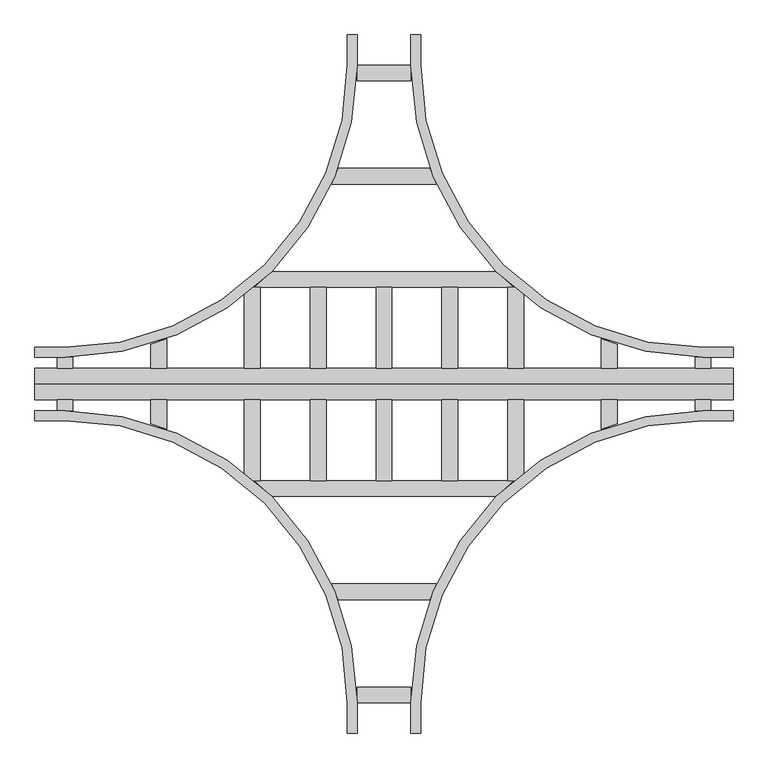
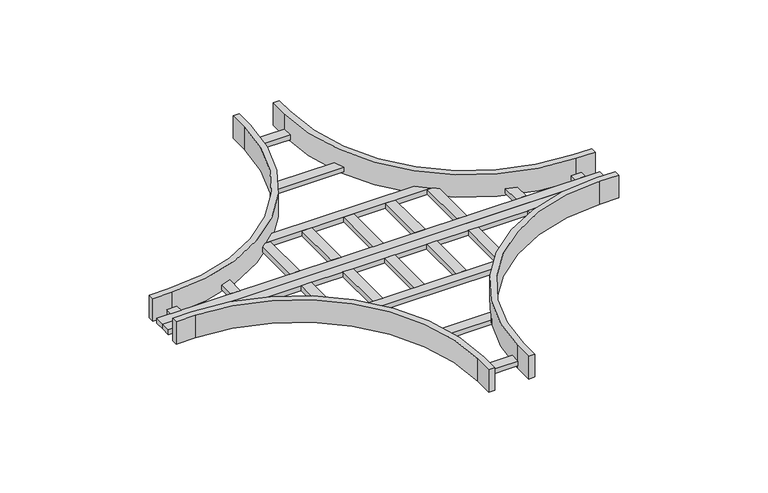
"""IFC4 building model written with IfcOpenShell, lengths in millimetres: cable carrier fitting geometry, Legrand_CableLadder_Swifts_Topaz_Cross2Piece-750R-13 : Hot Dip Galvanised (after manufacture)."""

import ifcopenshell
import ifcopenshell.guid

model = None  # the IFC model being written
_history = None  # IfcOwnerHistory: only IFC2X3 demands one
_inside = {}  # id of a spatial element -> (the spatial element, [elements in it])
_under = {}  # id of a project, library or spatial element -> (it, [spatial elements below it])
_declared = {}  # id of a project -> (the project, [libraries it declares])
_typed = {}  # id of a type object -> (the type object, [elements of that type])
_made_of = {}  # id of a material, layer set ... -> (it, [elements and type objects made of it])


def new_model(schema):
    """Start an empty IFC model of exactly this schema.

    Asked for "IFC4X3", IfcOpenShell would pick the latest addendum, in which some entities
    have other attributes; the version numbers below select the first issue.
    IFC2X3 requires an IfcOwnerHistory on every rooted entity: one is made here for all.
    """
    global model, _history
    if schema == "IFC4X3":
        model = ifcopenshell.file(schema_version=(4, 3, 0, 0))
    else:
        model = ifcopenshell.file(schema=schema)
    _inside.clear()
    _under.clear()
    _declared.clear()
    _typed.clear()
    _made_of.clear()
    _history = None
    if model.schema == "IFC2X3":
        org = make("IfcOrganization", Name="unknown")
        user = make(
            "IfcPersonAndOrganization",
            ThePerson=make("IfcPerson", FamilyName="unknown"),
            TheOrganization=org,
        )
        app = make(
            "IfcApplication",
            ApplicationDeveloper=org,
            Version="unknown",
            ApplicationFullName="unknown",
            ApplicationIdentifier="unknown",
        )
        _history = make(
            "IfcOwnerHistory",
            OwningUser=user,
            OwningApplication=app,
            ChangeAction="ADDED",
            CreationDate=0,
        )
    return model


def make(cls, **values):
    """One entity of the class cls with the attributes given. An attribute that is None is left unset."""
    return model.create_entity(
        cls, **{name: value for name, value in values.items() if value is not None}
    )


def rooted(cls, **values):
    """An entity with a GlobalId (a new one), such as an element, a storey or a relation."""
    return make(cls, GlobalId=ifcopenshell.guid.new(), OwnerHistory=_history, **values)


def si_unit(unit_type, name, prefix=None):
    """IfcSIUnit, for example si_unit("LENGTHUNIT", "METRE", prefix="MILLI")."""
    return make("IfcSIUnit", UnitType=unit_type, Prefix=prefix, Name=name)


def assignment(units):
    """IfcUnitAssignment: the units of a project."""
    return None if units is None else make("IfcUnitAssignment", Units=units)


def point(xyz):
    """IfcCartesianPoint."""
    return None if xyz is None else make("IfcCartesianPoint", Coordinates=xyz)


def direction(xyz):
    """IfcDirection."""
    return None if xyz is None else make("IfcDirection", DirectionRatios=xyz)


def frame(location, z_axis=None, x_axis=None):
    """IfcAxis2Placement3D, a coordinate frame: its origin and axes. An axis left out is left unset."""
    return make(
        "IfcAxis2Placement3D",
        Location=point(location),
        Axis=direction(z_axis),
        RefDirection=direction(x_axis),
    )


def frame_2d(location, x_axis=None):
    """IfcAxis2Placement2D, a coordinate frame in the plane: its origin and x axis."""
    return make(
        "IfcAxis2Placement2D", Location=point(location), RefDirection=direction(x_axis)
    )


def origin():
    """The frame at (0, 0, 0) with its axes left unset."""
    return frame((0.0, 0.0, 0.0))


def place(relative_to, where):
    """IfcLocalPlacement: puts the frame where relative to a parent placement (None: the world)."""
    return make(
        "IfcLocalPlacement", PlacementRelTo=relative_to, RelativePlacement=where
    )


def context(
    kind, dimensions, precision=None, world=None, true_north=None, identifier=None
):
    """IfcGeometricRepresentationContext, for example the 3D "Model" context."""
    return make(
        "IfcGeometricRepresentationContext",
        ContextIdentifier=identifier,
        ContextType=kind,
        CoordinateSpaceDimension=dimensions,
        Precision=precision,
        WorldCoordinateSystem=world,
        TrueNorth=true_north,
    )


def project(units=None, contexts=None):
    """IfcProject with its units and contexts."""
    return rooted(
        "IfcProject",
        Name="project",
        RepresentationContexts=contexts,
        UnitsInContext=assignment(units),
    )


def spatial(cls, under=None, at=None, **own):
    """A site, building, storey or space (cls), placed at a placement, below another one or the project."""
    s = rooted(cls, ObjectPlacement=at, **own)
    if under is not None:
        _under.setdefault(under.id(), (under, []))[1].append(s)
    return s


def polyline(points):
    """IfcPolyline through the points."""
    return make("IfcPolyline", Points=[point(p) for p in points])


def circle_curve(where, radius):
    """IfcCircle in the frame where."""
    return make("IfcCircle", Position=where, Radius=radius)


def trimmed(basis, trim1, trim2, sense, master):
    """IfcTrimmedCurve: the piece of a basis curve between two trims."""
    return make(
        "IfcTrimmedCurve",
        BasisCurve=basis,
        Trim1=trim1,
        Trim2=trim2,
        SenseAgreement=sense,
        MasterRepresentation=master,
    )


def segment(curve, same_sense, transition):
    """IfcCompositeCurveSegment."""
    return make(
        "IfcCompositeCurveSegment",
        Transition=transition,
        SameSense=same_sense,
        ParentCurve=curve,
    )


def composite_curve(segments, self_intersect=None):
    """IfcCompositeCurve: segments joined end to end."""
    return make("IfcCompositeCurve", Segments=segments, SelfIntersect=self_intersect)


def outline(outer, holes=None, kind="AREA"):
    """IfcArbitraryClosedProfileDef: a profile drawn as a closed curve; with holes, ...WithVoids."""
    if holes is None:
        return make("IfcArbitraryClosedProfileDef", ProfileType=kind, OuterCurve=outer)
    return make(
        "IfcArbitraryProfileDefWithVoids",
        ProfileType=kind,
        OuterCurve=outer,
        InnerCurves=holes,
    )


def extrude(swept, where, along, depth):
    """IfcExtrudedAreaSolid: the profile swept, set in the frame where, extruded along a direction by depth."""
    return make(
        "IfcExtrudedAreaSolid",
        SweptArea=swept,
        Position=where,
        ExtrudedDirection=direction(along),
        Depth=depth,
    )


def shape(context_of_items, identifier, shape_type, items):
    """IfcShapeRepresentation: the items that make up one representation, for example the "Body"."""
    return make(
        "IfcShapeRepresentation",
        ContextOfItems=context_of_items,
        RepresentationIdentifier=identifier,
        RepresentationType=shape_type,
        Items=items,
    )


def source(mapping_origin, context_of_items, identifier, shape_type, items):
    """IfcRepresentationMap: a shape defined once, which mapped items show again and again."""
    return make(
        "IfcRepresentationMap",
        MappingOrigin=mapping_origin,
        MappedRepresentation=shape(context_of_items, identifier, shape_type, items),
    )


def transform(
    local_origin,
    x_axis=None,
    y_axis=None,
    z_axis=None,
    scale=None,
    scale2=None,
    scale3=None,
    uniform=True,
):
    """IfcCartesianTransformationOperator3D, or its non-uniform kind. x_axis, y_axis, z_axis: its Axis1, 2, 3."""
    if uniform:
        return make(
            "IfcCartesianTransformationOperator3D",
            Axis1=direction(x_axis),
            Axis2=direction(y_axis),
            LocalOrigin=point(local_origin),
            Scale=scale,
            Axis3=direction(z_axis),
        )
    return make(
        "IfcCartesianTransformationOperator3DnonUniform",
        Axis1=direction(x_axis),
        Axis2=direction(y_axis),
        LocalOrigin=point(local_origin),
        Scale=scale,
        Axis3=direction(z_axis),
        Scale2=scale2,
        Scale3=scale3,
    )


def mapped(mapping_source, mapping_target):
    """IfcMappedItem: shows the shape of a source again, moved by a transform."""
    return make(
        "IfcMappedItem", MappingSource=mapping_source, MappingTarget=mapping_target
    )


def made_of(thing, what):
    """Note that an element or type object is made of a material, layer set ...; save() writes the relation."""
    if what is not None:
        _made_of.setdefault(what.id(), (what, []))[1].append(thing)
    return thing


def element(
    cls,
    number,
    at=None,
    inside=None,
    cuts=None,
    type_object=None,
    material=None,
    context=None,
    identifier="Body",
    shape_type=None,
    held_by="IfcProductDefinitionShape",
    body=None,
    shapes=None,
    **own,
):
    """One element of the class cls, such as IfcWall. Its Tag is "e" and its number.

    at: its placement. inside: the storey or other place that contains it. cuts: it is an
    opening in that element (IfcRelVoidsElement). A single representation is given by context,
    identifier, shape_type and body (its items); several are given by shapes. held_by: the class
    of the entity that holds the representations. save() writes the other relations.
    """
    e = rooted(cls, Tag="e%d" % number, ObjectPlacement=at, **own)
    if body is not None:
        shapes = [shape(context, identifier, shape_type, body)]
    if shapes is not None:
        e.Representation = make(held_by, Representations=shapes)
    if inside is not None:
        _inside.setdefault(inside.id(), (inside, []))[1].append(e)
    if cuts is not None:
        rooted(
            "IfcRelVoidsElement", RelatingBuildingElement=cuts, RelatedOpeningElement=e
        )
    if type_object is not None:
        _typed.setdefault(type_object.id(), (type_object, []))[1].append(e)
    return made_of(e, material)


def aggregate(whole, parts):
    """IfcRelAggregates: a whole, such as a stair, and the parts it consists of."""
    return rooted("IfcRelAggregates", RelatingObject=whole, RelatedObjects=parts)


def save(model, path):
    """Write the relations noted so far, then the file.

    IfcRelAggregates (storeys below a building ...), IfcRelContainedInSpatialStructure (elements
    in a storey), IfcRelDefinesByType, IfcRelAssociatesMaterial and IfcRelDeclares: one each for
    every whole, place, type object, material and project.
    """
    for whole, parts in _under.values():
        aggregate(whole, parts)
    for where, things in _inside.values():
        rooted(
            "IfcRelContainedInSpatialStructure",
            RelatedElements=things,
            RelatingStructure=where,
        )
    for kind, things in _typed.values():
        rooted("IfcRelDefinesByType", RelatedObjects=things, RelatingType=kind)
    for what, things in _made_of.values():
        rooted("IfcRelAssociatesMaterial", RelatedObjects=things, RelatingMaterial=what)
    for by, libraries in _declared.values():
        rooted("IfcRelDeclares", RelatingContext=by, RelatedDefinitions=libraries)
    model.write(path)


def cable_carrier_fitting_7f253313(model_context):
    return source(origin(), model_context, "Body", "SweptSolid", [
        extrude(outline(polyline([(-196.0, 42.0), (-196.0, 256.6), (-154.0, 256.6), (-154.0, 42.0), (-196.0, 42.0)])), frame((0.0, 0.0, -40.0), z_axis=(0.0, 0.0, 1.0), x_axis=(1.0, 0.0, 0.0)), (0.0, 0.0, 1.0), 21.0),
        extrude(outline(polyline([(154.0, 42.0), (154.0, 256.6), (196.0, 256.6), (196.0, 42.0), (154.0, 42.0)])), frame((0.0, 0.0, -40.0), z_axis=(0.0, 0.0, 1.0), x_axis=(1.0, 0.0, 0.0)), (0.0, 0.0, 1.0), 21.0),
        extrude(outline(polyline([(-154.0, -42.0), (-154.0, -256.6), (-196.0, -256.6), (-196.0, -42.0), (-154.0, -42.0)])), frame((0.0, 0.0, -40.0), z_axis=(0.0, 0.0, 1.0), x_axis=(1.0, 0.0, 0.0)), (0.0, 0.0, 1.0), 21.0),
        extrude(outline(polyline([(196.0, -256.6), (154.0, -256.6), (154.0, -42.0), (196.0, -42.0), (196.0, -256.6)])), frame((0.0, 0.0, -40.0), z_axis=(0.0, 0.0, 1.0), x_axis=(1.0, 0.0, 0.0)), (0.0, 0.0, 1.0), 21.0),
        extrude(outline(composite_curve([segment(polyline([(577.5, 42.0), (577.5, 119.8342692)]), True, "CONTINUOUS"), segment(trimmed(circle_curve(frame_2d((847.0, 847.0)), 775.5), [point((577.5, 119.8342692))], [point((619.5, 105.6202053))], True, "CARTESIAN"), True, "CONTINUOUS"), segment(polyline([(619.5, 105.6202053), (619.5, 42.0), (577.5, 42.0)]), True, "CONTINUOUS")], self_intersect=False)), frame((0.0, 0.0, -40.0), z_axis=(0.0, 0.0, 1.0), x_axis=(1.0, 0.0, 0.0)), (0.0, 0.0, 1.0), 21.0),
        extrude(outline(composite_curve([segment(polyline([(577.5, -119.8342692), (577.5, -42.0), (619.5, -42.0), (619.5, -105.6202053)]), True, "CONTINUOUS"), segment(trimmed(circle_curve(frame_2d((847.0, -847.0)), 775.5), [point((619.5, -105.6202053))], [point((577.5, -119.8342692))], True, "CARTESIAN"), True, "CONTINUOUS")], self_intersect=False)), frame((0.0, 0.0, -40.0), z_axis=(0.0, 0.0, 1.0), x_axis=(1.0, 0.0, 0.0)), (0.0, 0.0, 1.0), 21.0),
        extrude(outline(composite_curve([segment(polyline([(-577.5, 42.0), (-619.5, 42.0), (-619.5, 105.6202053)]), True, "CONTINUOUS"), segment(trimmed(circle_curve(frame_2d((-847.0, 847.0)), 775.5), [point((-619.5, 105.6202053))], [point((-577.5, 119.8342692))], True, "CARTESIAN"), True, "CONTINUOUS"), segment(polyline([(-577.5, 119.8342692), (-577.5, 42.0)]), True, "CONTINUOUS")], self_intersect=False)), frame((0.0, 0.0, -40.0), z_axis=(0.0, 0.0, 1.0), x_axis=(1.0, 0.0, 0.0)), (0.0, 0.0, 1.0), 21.0),
        extrude(outline(composite_curve([segment(polyline([(-619.5, -42.0), (-577.5, -42.0), (-577.5, -119.8342692)]), True, "CONTINUOUS"), segment(trimmed(circle_curve(frame_2d((-847.0, -847.0)), 775.5), [point((-577.5, -119.8342692))], [point((-619.5, -105.6202053))], True, "CARTESIAN"), True, "CONTINUOUS"), segment(polyline([(-619.5, -105.6202053), (-619.5, -42.0)]), True, "CONTINUOUS")], self_intersect=False)), frame((0.0, 0.0, -40.0), z_axis=(0.0, 0.0, 1.0), x_axis=(1.0, 0.0, 0.0)), (0.0, 0.0, 1.0), 21.0),
        extrude(outline(polyline([(-371.0, 42.0), (-371.0, 256.6), (-329.0, 256.6), (-329.0, 42.0), (-371.0, 42.0)])), frame((0.0, 0.0, -40.0), z_axis=(0.0, 0.0, 1.0), x_axis=(1.0, 0.0, 0.0)), (0.0, 0.0, 1.0), 21.0),
        extrude(outline(polyline([(-329.0, -256.6), (-371.0, -256.6), (-371.0, -42.0), (-329.0, -42.0), (-329.0, -256.6)])), frame((0.0, 0.0, -40.0), z_axis=(0.0, 0.0, 1.0), x_axis=(1.0, 0.0, 0.0)), (0.0, 0.0, 1.0), 21.0),
        extrude(outline(polyline([(329.0, 42.0), (329.0, 256.6), (371.0, 256.6), (371.0, 42.0), (329.0, 42.0)])), frame((0.0, 0.0, -40.0), z_axis=(0.0, 0.0, 1.0), x_axis=(1.0, 0.0, 0.0)), (0.0, 0.0, 1.0), 21.0),
        extrude(outline(polyline([(371.0, -42.0), (371.0, -256.6), (329.0, -256.6), (329.0, -42.0), (371.0, -42.0)])), frame((0.0, 0.0, -40.0), z_axis=(0.0, 0.0, 1.0), x_axis=(1.0, 0.0, 0.0)), (0.0, 0.0, 1.0), 21.0),
        extrude(outline(polyline([(-21.0, 42.0), (-21.0, 256.6), (21.0, 256.6), (21.0, 42.0), (-21.0, 42.0)])), frame((0.0, 0.0, -40.0), z_axis=(0.0, 0.0, 1.0), x_axis=(1.0, 0.0, 0.0)), (0.0, 0.0, 1.0), 21.0),
        extrude(outline(polyline([(21.0, -42.0), (21.0, -256.6), (-21.0, -256.6), (-21.0, -42.0), (21.0, -42.0)])), frame((0.0, 0.0, -40.0), z_axis=(0.0, 0.0, 1.0), x_axis=(1.0, 0.0, 0.0)), (0.0, 0.0, 1.0), 21.0),
        extrude(outline(polyline([(-868.0, 42.0), (-868.0, 71.5), (-826.0, 71.5), (-826.0, 42.0), (-868.0, 42.0)])), frame((0.0, 0.0, -40.0), z_axis=(0.0, 0.0, 1.0), x_axis=(1.0, 0.0, 0.0)), (0.0, 0.0, 1.0), 21.0),
        extrude(outline(polyline([(-868.0, -71.5), (-868.0, -42.0), (-826.0, -42.0), (-826.0, -71.5), (-868.0, -71.5)])), frame((0.0, 0.0, -40.0), z_axis=(0.0, 0.0, 1.0), x_axis=(1.0, 0.0, 0.0)), (0.0, 0.0, 1.0), 21.0),
        extrude(outline(polyline([(826.0, 42.0), (826.0, 71.5), (868.0, 71.5), (868.0, 42.0), (826.0, 42.0)])), frame((0.0, 0.0, -40.0), z_axis=(0.0, 0.0, 1.0), x_axis=(1.0, 0.0, 0.0)), (0.0, 0.0, 1.0), 21.0),
        extrude(outline(polyline([(826.0, -71.5), (826.0, -42.0), (868.0, -42.0), (868.0, -71.5), (826.0, -71.5)])), frame((0.0, 0.0, -40.0), z_axis=(0.0, 0.0, 1.0), x_axis=(1.0, 0.0, 0.0)), (0.0, 0.0, 1.0), 21.0),
        extrude(outline(composite_curve([segment(trimmed(circle_curve(frame_2d((847.0, 847.0)), 775.5), [point((298.6773851, 298.6))], [point((344.1798632, 256.6))], True, "CARTESIAN"), True, "CONTINUOUS"), segment(polyline([(344.1798632, 256.6), (-344.1798632, 256.6)]), True, "CONTINUOUS"), segment(trimmed(circle_curve(frame_2d((-847.0, 847.0)), 775.5), [point((-344.1798632, 256.6))], [point((-298.6773851, 298.6))], True, "CARTESIAN"), True, "CONTINUOUS"), segment(polyline([(-298.6773851, 298.6), (298.6773851, 298.6)]), True, "CONTINUOUS")], self_intersect=False)), frame((0.0, 0.0, -40.0), z_axis=(0.0, 0.0, 1.0), x_axis=(1.0, 0.0, 0.0)), (0.0, 0.0, 1.0), 21.0),
        extrude(outline(composite_curve([segment(polyline([(298.6773851, -298.6), (-298.6773851, -298.6)]), True, "CONTINUOUS"), segment(trimmed(circle_curve(frame_2d((-847.0, -847.0)), 775.5), [point((-298.6773851, -298.6))], [point((-344.1798632, -256.6))], True, "CARTESIAN"), True, "CONTINUOUS"), segment(polyline([(-344.1798632, -256.6), (344.1798632, -256.6)]), True, "CONTINUOUS"), segment(trimmed(circle_curve(frame_2d((847.0, -847.0)), 775.5), [point((344.1798632, -256.6))], [point((298.6773851, -298.6))], True, "CARTESIAN"), True, "CONTINUOUS")], self_intersect=False)), frame((0.0, 0.0, -40.0), z_axis=(0.0, 0.0, 1.0), x_axis=(1.0, 0.0, 0.0)), (0.0, 0.0, 1.0), 21.0),
        extrude(outline(polyline([(-71.5, -847.0), (-71.5, -805.0), (71.5, -805.0), (71.5, -847.0), (-71.5, -847.0)])), frame((0.0, 0.0, -40.0), z_axis=(0.0, 0.0, 1.0), x_axis=(1.0, 0.0, 0.0)), (0.0, 0.0, 1.0), 21.0),
        extrude(outline(polyline([(-71.5, 847.0), (71.5, 847.0), (71.5, 805.0), (-71.5, 805.0), (-71.5, 847.0)])), frame((0.0, 0.0, -40.0), z_axis=(0.0, 0.0, 1.0), x_axis=(1.0, 0.0, 0.0)), (0.0, 0.0, 1.0), 21.0),
        extrude(outline(composite_curve([segment(trimmed(circle_curve(frame_2d((847.0, 847.0)), 775.5), [point((121.5934864, 572.8))], [point((138.8913854, 530.8))], True, "CARTESIAN"), True, "CONTINUOUS"), segment(polyline([(138.8913854, 530.8), (-138.8913854, 530.8)]), True, "CONTINUOUS"), segment(trimmed(circle_curve(frame_2d((-847.0, 847.0)), 775.5), [point((-138.8913854, 530.8))], [point((-121.5934864, 572.8))], True, "CARTESIAN"), True, "CONTINUOUS"), segment(polyline([(-121.5934864, 572.8), (121.5934864, 572.8)]), True, "CONTINUOUS")], self_intersect=False)), frame((0.0, 0.0, -40.0), z_axis=(0.0, 0.0, 1.0), x_axis=(1.0, 0.0, 0.0)), (0.0, 0.0, 1.0), 21.0),
        extrude(outline(composite_curve([segment(trimmed(circle_curve(frame_2d((847.0, -847.0)), 775.5), [point((138.8913854, -530.8))], [point((121.5934864, -572.8))], True, "CARTESIAN"), True, "CONTINUOUS"), segment(polyline([(121.5934864, -572.8), (-121.5934864, -572.8)]), True, "CONTINUOUS"), segment(trimmed(circle_curve(frame_2d((-847.0, -847.0)), 775.5), [point((-121.5934864, -572.8))], [point((-138.8913854, -530.8))], True, "CARTESIAN"), True, "CONTINUOUS"), segment(polyline([(-138.8913854, -530.8), (138.8913854, -530.8)]), True, "CONTINUOUS")], self_intersect=False)), frame((0.0, 0.0, -40.0), z_axis=(0.0, 0.0, 1.0), x_axis=(1.0, 0.0, 0.0)), (0.0, 0.0, 1.0), 21.0),
        extrude(outline(polyline([(-927.0, 0.0), (927.0, 0.0), (927.0, -42.0), (-927.0, -42.0), (-927.0, 0.0)])), frame((0.0, 0.0, -40.0), z_axis=(0.0, 0.0, 1.0), x_axis=(1.0, 0.0, 0.0)), (0.0, 0.0, 1.0), 21.0),
        extrude(outline(polyline([(-927.0, 0.0), (-927.0, 42.0), (927.0, 42.0), (927.0, 0.0), (-927.0, 0.0)])), frame((0.0, 0.0, -40.0), z_axis=(0.0, 0.0, 1.0), x_axis=(1.0, 0.0, 0.0)), (0.0, 0.0, 1.0), 21.0),
        extrude(outline(composite_curve([segment(polyline([(927.0, -71.5), (927.0, -97.0), (847.0, -97.0)]), True, "CONTINUOUS"), segment(trimmed(circle_curve(frame_2d((847.0, -847.0)), 750.0), [point((847.0, -97.0))], [point((97.0, -847.0))], True, "CARTESIAN"), True, "CONTINUOUS"), segment(polyline([(97.0, -847.0), (97.0, -927.0), (71.5, -927.0), (71.5, -847.0)]), True, "CONTINUOUS"), segment(trimmed(circle_curve(frame_2d((847.0, -847.0)), 775.5), [point((71.5, -847.0))], [point((847.0, -71.5))], False, "CARTESIAN"), True, "CONTINUOUS"), segment(polyline([(847.0, -71.5), (927.0, -71.5)]), True, "CONTINUOUS")], self_intersect=False)), frame((0.0, 0.0, -50.0), z_axis=(0.0, 0.0, 1.0), x_axis=(1.0, 0.0, 0.0)), (0.0, 0.0, 1.0), 100.0),
        extrude(outline(composite_curve([segment(polyline([(-927.0, -97.0), (-927.0, -71.5), (-847.0, -71.5)]), True, "CONTINUOUS"), segment(trimmed(circle_curve(frame_2d((-847.0, -847.0)), 775.5), [point((-847.0, -71.5))], [point((-71.5, -847.0))], False, "CARTESIAN"), True, "CONTINUOUS"), segment(polyline([(-71.5, -847.0), (-71.5, -927.0), (-97.0, -927.0), (-97.0, -847.0)]), True, "CONTINUOUS"), segment(trimmed(circle_curve(frame_2d((-847.0, -847.0)), 750.0), [point((-97.0, -847.0))], [point((-847.0, -97.0))], True, "CARTESIAN"), True, "CONTINUOUS"), segment(polyline([(-847.0, -97.0), (-927.0, -97.0)]), True, "CONTINUOUS")], self_intersect=False)), frame((0.0, 0.0, -50.0), z_axis=(0.0, 0.0, 1.0), x_axis=(1.0, 0.0, 0.0)), (0.0, 0.0, 1.0), 100.0),
        extrude(outline(composite_curve([segment(polyline([(-927.0, 71.5), (-927.0, 97.0), (-847.0, 97.0)]), True, "CONTINUOUS"), segment(trimmed(circle_curve(frame_2d((-847.0, 847.0)), 750.0), [point((-847.0, 97.0))], [point((-97.0, 847.0))], True, "CARTESIAN"), True, "CONTINUOUS"), segment(polyline([(-97.0, 847.0), (-97.0, 927.0), (-71.5, 927.0), (-71.5, 847.0)]), True, "CONTINUOUS"), segment(trimmed(circle_curve(frame_2d((-847.0, 847.0)), 775.5), [point((-71.5, 847.0))], [point((-847.0, 71.5))], False, "CARTESIAN"), True, "CONTINUOUS"), segment(polyline([(-847.0, 71.5), (-927.0, 71.5)]), True, "CONTINUOUS")], self_intersect=False)), frame((0.0, 0.0, -50.0), z_axis=(0.0, 0.0, 1.0), x_axis=(1.0, 0.0, 0.0)), (0.0, 0.0, 1.0), 100.0),
        extrude(outline(composite_curve([segment(polyline([(927.0, 97.0), (927.0, 71.5), (847.0, 71.5)]), True, "CONTINUOUS"), segment(trimmed(circle_curve(frame_2d((847.0, 847.0)), 775.5), [point((847.0, 71.5))], [point((71.5, 847.0))], False, "CARTESIAN"), True, "CONTINUOUS"), segment(polyline([(71.5, 847.0), (71.5, 927.0), (97.0, 927.0), (97.0, 847.0)]), True, "CONTINUOUS"), segment(trimmed(circle_curve(frame_2d((847.0, 847.0)), 750.0), [point((97.0, 847.0))], [point((847.0, 97.0))], True, "CARTESIAN"), True, "CONTINUOUS"), segment(polyline([(847.0, 97.0), (927.0, 97.0)]), True, "CONTINUOUS")], self_intersect=False)), frame((0.0, 0.0, -50.0), z_axis=(0.0, 0.0, 1.0), x_axis=(1.0, 0.0, 0.0)), (0.0, 0.0, 1.0), 100.0),
    ])


if __name__ == "__main__":
    model = new_model("IFC4")
    model_context = context("Model", 3, world=origin())
    ifc_project = project(units=[si_unit("LENGTHUNIT", "METRE", prefix="MILLI")], contexts=[model_context])
    site = spatial("IfcSite", under=ifc_project)
    building = spatial("IfcBuilding", under=site)
    placement = place(None, origin())
    cable_carrier_fitting_shape = cable_carrier_fitting_7f253313(model_context)
    element("IfcCableCarrierFitting", 1, ObjectType="Legrand_CableLadder_Swifts_Topaz_Cross2Piece-750R-13 : Hot Dip Galvanised (after manufacture)", at=placement, inside=building, context=model_context, shape_type="MappedRepresentation", body=[
        mapped(cable_carrier_fitting_shape, transform((0.0, 0.0, 0.0), x_axis=(1.0, 0.0, 0.0), y_axis=(0.0, 1.0, 0.0), z_axis=(0.0, 0.0, 1.0))),
    ])
    save(model, "model.ifc")
